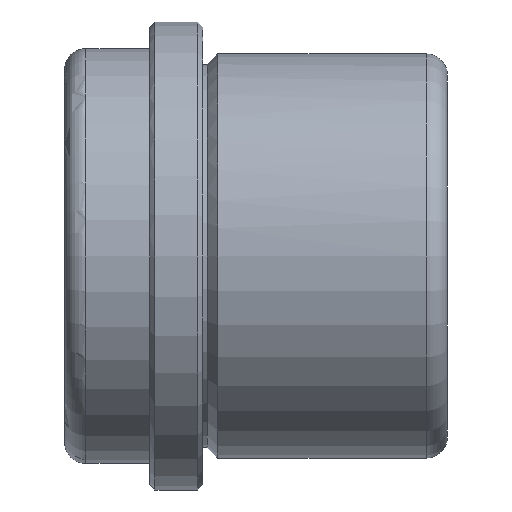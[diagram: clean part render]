
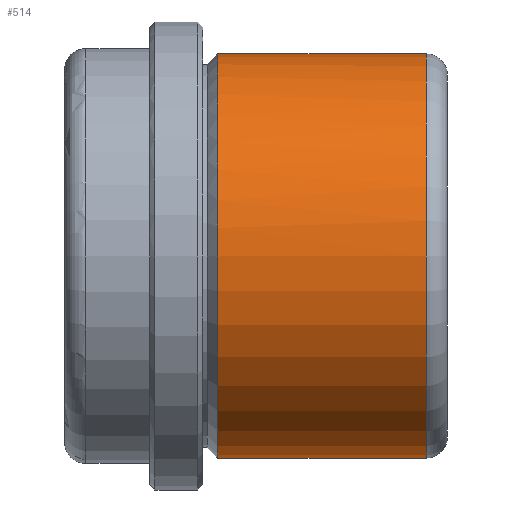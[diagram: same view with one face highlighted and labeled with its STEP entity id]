
A CAD part, front view. The second image highlights one B-rep face of the part: STEP entity #514.
In plain terms, the highlighted cylindrical face has radius 19 mm (diameter 38 mm), a partial arc.
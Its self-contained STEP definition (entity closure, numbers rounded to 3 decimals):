
#297=CARTESIAN_POINT('Line Origine',(23.,0.,19.)) ;
#301=CARTESIAN_POINT('Vertex',(21.,0.,19.)) ;
#303=CARTESIAN_POINT('Vertex',(1.414,0.,19.)) ;
#317=CARTESIAN_POINT('Vertex',(21.,0.,-19.)) ;
#320=CARTESIAN_POINT('Line Origine',(23.,0.,-19.)) ;
#324=CARTESIAN_POINT('Vertex',(1.414,0.,-19.)) ;
#474=CARTESIAN_POINT('Axis2P3D Location',(23.,0.,0.)) ;
#479=CARTESIAN_POINT('Axis2P3D Location',(21.,0.,0.)) ;
#483=CARTESIAN_POINT('Vertex',(21.,-19.,0.)) ;
#486=CARTESIAN_POINT('Axis2P3D Location',(21.,0.,0.)) ;
#492=CARTESIAN_POINT('Control Point',(1.414,0.,19.)) ;
#493=CARTESIAN_POINT('Control Point',(1.414,-5.969,19.)) ;
#494=CARTESIAN_POINT('Control Point',(1.414,-11.944,16.663)) ;
#495=CARTESIAN_POINT('Control Point',(1.414,-16.663,11.944)) ;
#496=CARTESIAN_POINT('Control Point',(1.414,-19.,5.969)) ;
#497=CARTESIAN_POINT('Control Point',(1.414,-19.,0.)) ;
#498=CARTESIAN_POINT('Vertex',(1.414,-19.,0.)) ;
#501=CARTESIAN_POINT('Axis2P3D Location',(1.414,0.,0.)) ;
#298=DIRECTION('Vector Direction',(-1.,0.,0.)) ;
#321=DIRECTION('Vector Direction',(-1.,0.,0.)) ;
#475=DIRECTION('Axis2P3D Direction',(-1.,-0.,-0.)) ;
#476=DIRECTION('Axis2P3D XDirection',(0.,0.,-1.)) ;
#480=DIRECTION('Axis2P3D Direction',(-1.,-0.,-0.)) ;
#487=DIRECTION('Axis2P3D Direction',(-1.,-0.,-0.)) ;
#502=DIRECTION('Axis2P3D Direction',(-1.,-0.,-0.)) ;
#477=AXIS2_PLACEMENT_3D('Cylinder Axis2P3D',#474,#475,#476) ;
#481=AXIS2_PLACEMENT_3D('Circle Axis2P3D',#479,#480,$) ;
#488=AXIS2_PLACEMENT_3D('Circle Axis2P3D',#486,#487,$) ;
#503=AXIS2_PLACEMENT_3D('Circle Axis2P3D',#501,#502,$) ;
#507=ORIENTED_EDGE('',*,*,#326,.T.) ;
#508=ORIENTED_EDGE('',*,*,#485,.F.) ;
#509=ORIENTED_EDGE('',*,*,#490,.F.) ;
#510=ORIENTED_EDGE('',*,*,#305,.T.) ;
#511=ORIENTED_EDGE('',*,*,#500,.T.) ;
#512=ORIENTED_EDGE('',*,*,#505,.T.) ;
#299=VECTOR('Line Direction',#298,1.) ;
#322=VECTOR('Line Direction',#321,1.) ;
#514=ADVANCED_FACE('FAMO-SF1-A25 x 36',(#513),#478,.T.) ;
#491=B_SPLINE_CURVE_WITH_KNOTS('',5,(#492,#493,#494,#495,#496,#497),.UNSPECIFIED.,.F.,.U.,(6,6),(-14.923,14.923),.UNSPECIFIED.) ;
#482=CIRCLE('generated circle',#481,19.) ;
#489=CIRCLE('generated circle',#488,19.) ;
#504=CIRCLE('generated circle',#503,19.) ;
#478=CYLINDRICAL_SURFACE('generated cylinder',#477,19.) ;
#305=EDGE_CURVE('',#302,#304,#300,.T.) ;
#326=EDGE_CURVE('',#325,#318,#323,.F.) ;
#485=EDGE_CURVE('',#484,#318,#482,.F.) ;
#490=EDGE_CURVE('',#302,#484,#489,.F.) ;
#500=EDGE_CURVE('',#304,#499,#491,.T.) ;
#505=EDGE_CURVE('',#499,#325,#504,.F.) ;
#506=EDGE_LOOP('',(#507,#508,#509,#510,#511,#512)) ;
#513=FACE_OUTER_BOUND('',#506,.T.) ;
#300=LINE('Line',#297,#299) ;
#323=LINE('Line',#320,#322) ;
#302=VERTEX_POINT('',#301) ;
#304=VERTEX_POINT('',#303) ;
#318=VERTEX_POINT('',#317) ;
#325=VERTEX_POINT('',#324) ;
#484=VERTEX_POINT('',#483) ;
#499=VERTEX_POINT('',#498) ;
